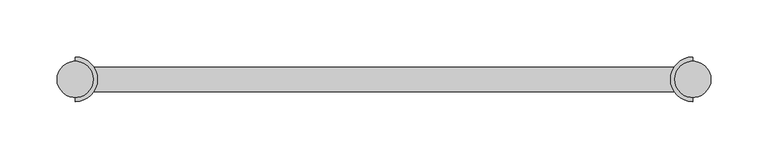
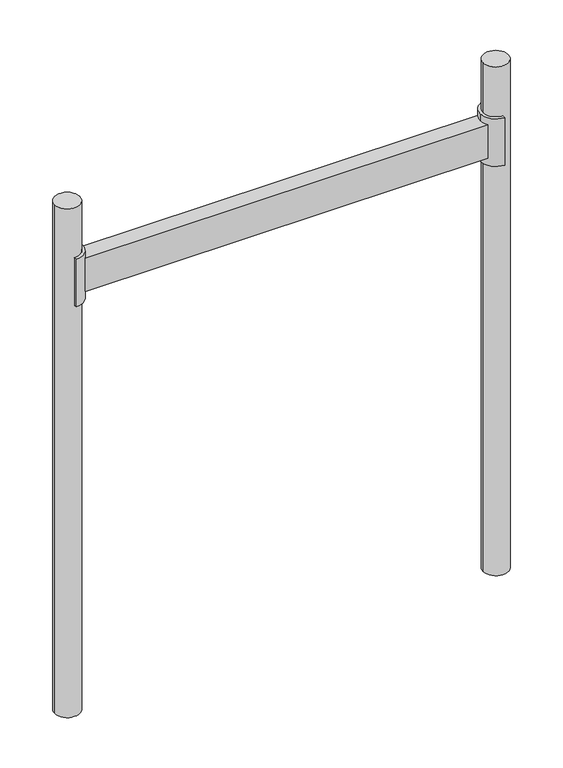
"""IFC4 building model written with IfcOpenShell, lengths in millimetres: furniture geometry."""

from ifc_helpers import new_model, si_unit, point, frame, frame_2d, origin, place, context, project, spatial, polyline, circle_curve, trimmed, segment, composite_curve, outline, extrude, source, transform, mapped, element, save


def furniture_a5205e5c(model_context):
    return source(origin(), model_context, "Body", "SweptSolid", [
        extrude(outline(polyline([(254.8610983, 10.6660156), (254.8610983, -10.6660156), (-254.7264017, -10.6660156), (-254.7264017, 10.6660156), (254.8610983, 10.6660156)])), frame((0.0, 0.0, 1611.7024246), z_axis=(0.0, 0.0, 1.0), x_axis=(1.0, 0.0, 0.0)), (0.0, 0.0, 1.0), 44.45),
        extrude(outline(composite_curve([segment(trimmed(circle_curve(frame_2d((-270.6014017, 0.0)), 15.875), [point((-254.7264017, 0.0))], [point((-270.6014017, 15.875))], True, "CARTESIAN"), True, "CONTINUOUS"), segment(polyline([(-270.6014017, 15.875), (-270.6014017, 19.54022)]), True, "CONTINUOUS"), segment(trimmed(circle_curve(frame_2d((-270.6014017, 0.0)), 19.54022), [point((-270.6014017, 19.54022))], [point((-251.0611817, 0.0))], False, "CARTESIAN"), True, "CONTINUOUS"), segment(trimmed(circle_curve(frame_2d((-270.6014017, 0.0)), 19.54022), [point((-251.0611817, 0.0))], [point((-270.6014017, -19.54022))], False, "CARTESIAN"), True, "CONTINUOUS"), segment(polyline([(-270.6014017, -19.54022), (-270.6014017, -15.875)]), True, "CONTINUOUS"), segment(trimmed(circle_curve(frame_2d((-270.6014017, 0.0)), 15.875), [point((-270.6014017, -15.875))], [point((-254.7264017, 0.0))], True, "CARTESIAN"), True, "CONTINUOUS")], self_intersect=False)), frame((0.0, 0.0, 1602.1774246), z_axis=(0.0, 0.0, 1.0), x_axis=(1.0, 0.0, 0.0)), (0.0, 0.0, 1.0), 63.5),
        extrude(outline(composite_curve([segment(trimmed(circle_curve(frame_2d((270.7360983, 0.0)), 19.54022), [point((251.1958783, 0.0))], [point((270.7360983, 19.54022))], False, "CARTESIAN"), True, "CONTINUOUS"), segment(polyline([(270.7360983, 19.54022), (270.7360983, 15.875)]), True, "CONTINUOUS"), segment(trimmed(circle_curve(frame_2d((270.7360983, 0.0)), 15.875), [point((270.7360983, 15.875))], [point((254.8610983, 0.0))], True, "CARTESIAN"), True, "CONTINUOUS"), segment(trimmed(circle_curve(frame_2d((270.7360983, 0.0)), 15.875), [point((254.8610983, 0.0))], [point((270.7360983, -15.875))], True, "CARTESIAN"), True, "CONTINUOUS"), segment(polyline([(270.7360983, -15.875), (270.7360983, -19.54022)]), True, "CONTINUOUS"), segment(trimmed(circle_curve(frame_2d((270.7360983, 0.0)), 19.54022), [point((270.7360983, -19.54022))], [point((251.1958783, 0.0))], False, "CARTESIAN"), True, "CONTINUOUS")], self_intersect=False)), frame((0.0, 0.0, 1602.1774246), z_axis=(0.0, 0.0, 1.0), x_axis=(1.0, 0.0, 0.0)), (0.0, 0.0, 1.0), 63.5),
        extrude(outline(composite_curve([segment(trimmed(circle_curve(frame_2d((-270.6014017, 0.0)), 15.875), [point((-254.7264017, 0.0))], [point((-286.4764017, 0.0))], False, "CARTESIAN"), True, "CONTINUOUS"), segment(trimmed(circle_curve(frame_2d((-270.6014017, 0.0)), 15.875), [point((-286.4764017, 0.0))], [point((-254.7264017, 0.0))], False, "CARTESIAN"), True, "CONTINUOUS")], self_intersect=False)), frame((0.0, 0.0, 1052.9024246), z_axis=(0.0, 0.0, 1.0), x_axis=(1.0, 0.0, 0.0)), (0.0, 0.0, 1.0), 679.45),
        extrude(outline(composite_curve([segment(trimmed(circle_curve(frame_2d((270.7360983, 0.0)), 15.875), [point((286.6110983, 0.0))], [point((254.8610983, 0.0))], False, "CARTESIAN"), True, "CONTINUOUS"), segment(trimmed(circle_curve(frame_2d((270.7360983, 0.0)), 15.875), [point((254.8610983, 0.0))], [point((286.6110983, 0.0))], False, "CARTESIAN"), True, "CONTINUOUS")], self_intersect=False)), frame((0.0, 0.0, 1052.9024246), z_axis=(0.0, 0.0, 1.0), x_axis=(1.0, 0.0, 0.0)), (0.0, 0.0, 1.0), 679.45),
    ])


if __name__ == "__main__":
    model = new_model("IFC4")
    model_context = context("Model", 3, world=origin())
    ifc_project = project(units=[si_unit("LENGTHUNIT", "METRE", prefix="MILLI")], contexts=[model_context])
    site = spatial("IfcSite", under=ifc_project)
    building = spatial("IfcBuilding", under=site)
    placement = place(None, origin())
    furniture_shape = furniture_a5205e5c(model_context)
    element("IfcFurniture", 1, ObjectType="HermanMiller_Carts_CT790_Above-CartRailSingle-WideCart : Rail For Carts 28\"W", at=placement, inside=building, context=model_context, shape_type="MappedRepresentation", body=[
        mapped(furniture_shape, transform((0.0, 0.0, 0.0), x_axis=(1.0, 0.0, 0.0), y_axis=(0.0, 1.0, 0.0), z_axis=(0.0, 0.0, 1.0))),
    ])
    save(model, "model.ifc")
